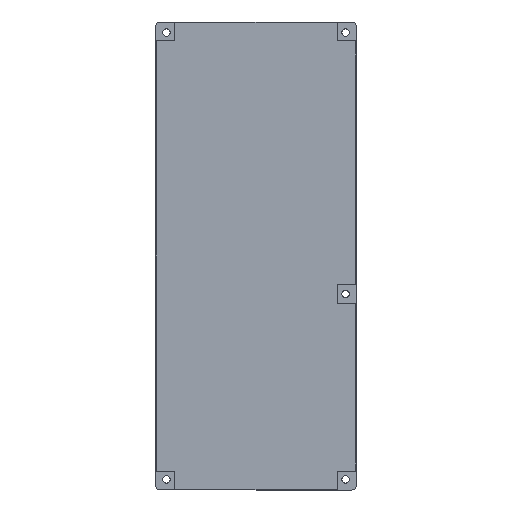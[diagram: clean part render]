
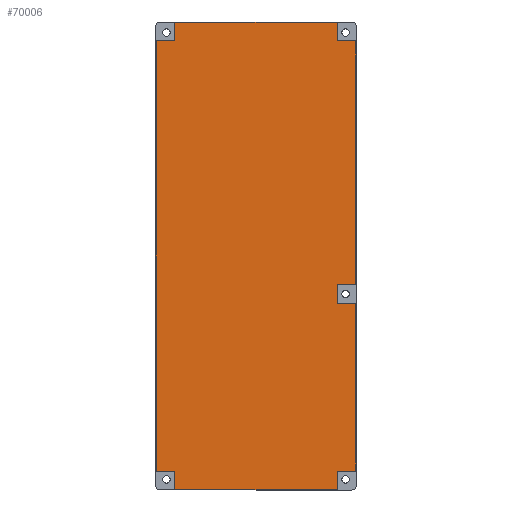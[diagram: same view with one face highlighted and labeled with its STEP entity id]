
A CAD part, front view. The second image highlights one B-rep face of the part: STEP entity #70006.
In plain terms, the highlighted planar face has unit normal (0, -1, 0).
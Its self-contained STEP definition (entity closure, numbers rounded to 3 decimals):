
#69575 = EDGE_CURVE ( 'NONE', #69888, #69912, #92481, .T. ) ;
#69715 = EDGE_CURVE ( 'NONE', #69740, #69847, #93199, .T. ) ;
#69740 = VERTEX_POINT ( 'NONE', #93342 ) ;
#69742 = EDGE_CURVE ( 'NONE', #69744, #69740, #93337, .T. ) ;
#69744 = VERTEX_POINT ( 'NONE', #93330 ) ;
#69785 = VERTEX_POINT ( 'NONE', #93517 ) ;
#69788 = EDGE_CURVE ( 'NONE', #69825, #69785, #93511, .T. ) ;
#69796 = VERTEX_POINT ( 'NONE', #93593 ) ;
#69800 = EDGE_CURVE ( 'NONE', #69847, #69796, #93584, .T. ) ;
#69825 = VERTEX_POINT ( 'NONE', #93745 ) ;
#69847 = VERTEX_POINT ( 'NONE', #93800 ) ;
#69857 = VERTEX_POINT ( 'NONE', #93776 ) ;
#69861 = EDGE_CURVE ( 'NONE', #69912, #69857, #93915, .T. ) ;
#69872 = VERTEX_POINT ( 'NONE', #93934 ) ;
#69888 = VERTEX_POINT ( 'NONE', #94042 ) ;
#69897 = EDGE_CURVE ( 'NONE', #69785, #69888, #94124, .T. ) ;
#69912 = VERTEX_POINT ( 'NONE', #94201 ) ;
#69913 = EDGE_CURVE ( 'NONE', #69796, #69825, #94195, .T. ) ;
#69923 = EDGE_CURVE ( 'NONE', #69967, #70057, #94128, .T. ) ;
#69948 = VERTEX_POINT ( 'NONE', #94204 ) ;
#69954 = EDGE_CURVE ( 'NONE', #69982, #69948, #94347, .T. ) ;
#69967 = VERTEX_POINT ( 'NONE', #94410 ) ;
#69970 = EDGE_CURVE ( 'NONE', #69857, #69872, #94404, .T. ) ;
#69982 = VERTEX_POINT ( 'NONE', #94480 ) ;
#69987 = EDGE_CURVE ( 'NONE', #69872, #69982, #94564, .T. ) ;
#70002 = EDGE_CURVE ( 'NONE', #70039, #69744, #94666, .T. ) ;
#70006 = ADVANCED_FACE ( 'NONE', ( #94659 ), #94764, .T. ) ;
#70009 = EDGE_LOOP ( 'NONE', ( #70112, #70114, #70115, #70118, #70120, #70121, #70122, #70123, #70125, #70127, #70099, #70100, #70101, #70106, #70109, #70110 ) ) ;
#70025 = VERTEX_POINT ( 'NONE', #94741 ) ;
#70029 = EDGE_CURVE ( 'NONE', #70057, #70025, #94735, .T. ) ;
#70039 = VERTEX_POINT ( 'NONE', #94814 ) ;
#70043 = EDGE_CURVE ( 'NONE', #69948, #69967, #94910, .T. ) ;
#70057 = VERTEX_POINT ( 'NONE', #94960 ) ;
#70099 = ORIENTED_EDGE ( 'NONE', *, *, #69970, .T. ) ;
#70100 = ORIENTED_EDGE ( 'NONE', *, *, #69987, .T. ) ;
#70101 = ORIENTED_EDGE ( 'NONE', *, *, #69954, .T. ) ;
#70106 = ORIENTED_EDGE ( 'NONE', *, *, #70043, .T. ) ;
#70109 = ORIENTED_EDGE ( 'NONE', *, *, #69923, .T. ) ;
#70110 = ORIENTED_EDGE ( 'NONE', *, *, #70029, .T. ) ;
#70112 = ORIENTED_EDGE ( 'NONE', *, *, #70130, .T. ) ;
#70114 = ORIENTED_EDGE ( 'NONE', *, *, #70002, .T. ) ;
#70115 = ORIENTED_EDGE ( 'NONE', *, *, #69742, .T. ) ;
#70118 = ORIENTED_EDGE ( 'NONE', *, *, #69715, .T. ) ;
#70120 = ORIENTED_EDGE ( 'NONE', *, *, #69800, .T. ) ;
#70121 = ORIENTED_EDGE ( 'NONE', *, *, #69913, .T. ) ;
#70122 = ORIENTED_EDGE ( 'NONE', *, *, #69788, .T. ) ;
#70123 = ORIENTED_EDGE ( 'NONE', *, *, #69897, .T. ) ;
#70125 = ORIENTED_EDGE ( 'NONE', *, *, #69575, .T. ) ;
#70127 = ORIENTED_EDGE ( 'NONE', *, *, #69861, .T. ) ;
#70130 = EDGE_CURVE ( 'NONE', #70025, #70039, #95140, .T. ) ;
#92475 = DIRECTION ( 'NONE',  ( -1., 0., 0. ) ) ;
#92476 = VECTOR ( 'NONE', #92475, 1000. ) ;
#92478 = CARTESIAN_POINT ( 'NONE',  ( -94.9, -8., -9. ) ) ;
#92481 = LINE ( 'NONE', #92478, #92476 ) ;
#93194 = DIRECTION ( 'NONE',  ( 0., 0., 1. ) ) ;
#93196 = VECTOR ( 'NONE', #93194, 1000. ) ;
#93198 = CARTESIAN_POINT ( 'NONE',  ( -0.1, -8., -0.1 ) ) ;
#93199 = LINE ( 'NONE', #93198, #93196 ) ;
#93330 = CARTESIAN_POINT ( 'NONE',  ( -9., -8., -124.5 ) ) ;
#93332 = DIRECTION ( 'NONE',  ( 1., 0., 0. ) ) ;
#93334 = VECTOR ( 'NONE', #93332, 1000. ) ;
#93336 = CARTESIAN_POINT ( 'NONE',  ( -94.9, -8., -124.5 ) ) ;
#93337 = LINE ( 'NONE', #93336, #93334 ) ;
#93342 = CARTESIAN_POINT ( 'NONE',  ( -0.1, -8., -124.5 ) ) ;
#93506 = DIRECTION ( 'NONE',  ( -1., 0., 0. ) ) ;
#93508 = VECTOR ( 'NONE', #93506, 1000. ) ;
#93510 = CARTESIAN_POINT ( 'NONE',  ( -94.9, -8., -0.1 ) ) ;
#93511 = LINE ( 'NONE', #93510, #93508 ) ;
#93517 = CARTESIAN_POINT ( 'NONE',  ( -86., -8., -0.1 ) ) ;
#93580 = DIRECTION ( 'NONE',  ( -1., 0., 0. ) ) ;
#93581 = VECTOR ( 'NONE', #93580, 1000. ) ;
#93582 = CARTESIAN_POINT ( 'NONE',  ( -94.9, -8., -9. ) ) ;
#93584 = LINE ( 'NONE', #93582, #93581 ) ;
#93593 = CARTESIAN_POINT ( 'NONE',  ( -9., -8., -9. ) ) ;
#93745 = CARTESIAN_POINT ( 'NONE',  ( -9., -8., -0.1 ) ) ;
#93776 = CARTESIAN_POINT ( 'NONE',  ( -94.9, -8., -213. ) ) ;
#93800 = CARTESIAN_POINT ( 'NONE',  ( -0.1, -8., -9. ) ) ;
#93910 = DIRECTION ( 'NONE',  ( 0., 0., -1. ) ) ;
#93912 = VECTOR ( 'NONE', #93910, 1000. ) ;
#93914 = CARTESIAN_POINT ( 'NONE',  ( -94.9, -8., -0.1 ) ) ;
#93915 = LINE ( 'NONE', #93914, #93912 ) ;
#93934 = CARTESIAN_POINT ( 'NONE',  ( -86., -8., -213. ) ) ;
#94042 = CARTESIAN_POINT ( 'NONE',  ( -86., -8., -9. ) ) ;
#94119 = DIRECTION ( 'NONE',  ( 0., 0., -1. ) ) ;
#94121 = VECTOR ( 'NONE', #94119, 1000. ) ;
#94123 = CARTESIAN_POINT ( 'NONE',  ( -86., -8., -0.1 ) ) ;
#94124 = LINE ( 'NONE', #94123, #94121 ) ;
#94128 = LINE ( 'NONE', #94275, #94273 ) ;
#94191 = DIRECTION ( 'NONE',  ( 0., 0., 1. ) ) ;
#94192 = VECTOR ( 'NONE', #94191, 1000. ) ;
#94194 = CARTESIAN_POINT ( 'NONE',  ( -9., -8., -0.1 ) ) ;
#94195 = LINE ( 'NONE', #94194, #94192 ) ;
#94201 = CARTESIAN_POINT ( 'NONE',  ( -94.9, -8., -9. ) ) ;
#94204 = CARTESIAN_POINT ( 'NONE',  ( -9., -8., -221.9 ) ) ;
#94272 = DIRECTION ( 'NONE',  ( 1., 0., 0. ) ) ;
#94273 = VECTOR ( 'NONE', #94272, 1000. ) ;
#94275 = CARTESIAN_POINT ( 'NONE',  ( -94.9, -8., -213. ) ) ;
#94341 = DIRECTION ( 'NONE',  ( 1., 0., 0. ) ) ;
#94343 = VECTOR ( 'NONE', #94341, 1000. ) ;
#94345 = CARTESIAN_POINT ( 'NONE',  ( -94.9, -8., -221.9 ) ) ;
#94347 = LINE ( 'NONE', #94345, #94343 ) ;
#94400 = DIRECTION ( 'NONE',  ( 1., 0., 0. ) ) ;
#94402 = VECTOR ( 'NONE', #94400, 1000. ) ;
#94403 = CARTESIAN_POINT ( 'NONE',  ( -94.9, -8., -213. ) ) ;
#94404 = LINE ( 'NONE', #94403, #94402 ) ;
#94410 = CARTESIAN_POINT ( 'NONE',  ( -9., -8., -213. ) ) ;
#94480 = CARTESIAN_POINT ( 'NONE',  ( -86., -8., -221.9 ) ) ;
#94549 = DIRECTION ( 'NONE',  ( 0., 0., -1. ) ) ;
#94551 = VECTOR ( 'NONE', #94549, 1000. ) ;
#94552 = CARTESIAN_POINT ( 'NONE',  ( -86., -8., -0.1 ) ) ;
#94564 = LINE ( 'NONE', #94552, #94551 ) ;
#94659 = FACE_OUTER_BOUND ( 'NONE', #70009, .T. ) ;
#94661 = DIRECTION ( 'NONE',  ( 0., 0., 1. ) ) ;
#94663 = VECTOR ( 'NONE', #94661, 1000. ) ;
#94665 = CARTESIAN_POINT ( 'NONE',  ( -9., -8., -0.1 ) ) ;
#94666 = LINE ( 'NONE', #94665, #94663 ) ;
#94731 = DIRECTION ( 'NONE',  ( 0., 0., 1. ) ) ;
#94732 = VECTOR ( 'NONE', #94731, 1000. ) ;
#94734 = CARTESIAN_POINT ( 'NONE',  ( -0.1, -8., -0.1 ) ) ;
#94735 = LINE ( 'NONE', #94734, #94732 ) ;
#94741 = CARTESIAN_POINT ( 'NONE',  ( -0.1, -8., -133.5 ) ) ;
#94752 = DIRECTION ( 'NONE',  ( 0., 0., -1. ) ) ;
#94754 = DIRECTION ( 'NONE',  ( 0., -1., 0. ) ) ;
#94756 = CARTESIAN_POINT ( 'NONE',  ( -94.9, -8., -0.1 ) ) ;
#94758 = AXIS2_PLACEMENT_3D ( 'NONE', #94756, #94754, #94752 ) ;
#94764 = PLANE ( 'NONE',  #94758 ) ;
#94814 = CARTESIAN_POINT ( 'NONE',  ( -9., -8., -133.5 ) ) ;
#94895 = DIRECTION ( 'NONE',  ( 0., 0., 1. ) ) ;
#94897 = VECTOR ( 'NONE', #94895, 1000. ) ;
#94898 = CARTESIAN_POINT ( 'NONE',  ( -9., -8., -0.1 ) ) ;
#94910 = LINE ( 'NONE', #94898, #94897 ) ;
#94960 = CARTESIAN_POINT ( 'NONE',  ( -0.1, -8., -213. ) ) ;
#95136 = DIRECTION ( 'NONE',  ( -1., 0., 0. ) ) ;
#95138 = VECTOR ( 'NONE', #95136, 1000. ) ;
#95139 = CARTESIAN_POINT ( 'NONE',  ( -94.9, -8., -133.5 ) ) ;
#95140 = LINE ( 'NONE', #95139, #95138 ) ;
